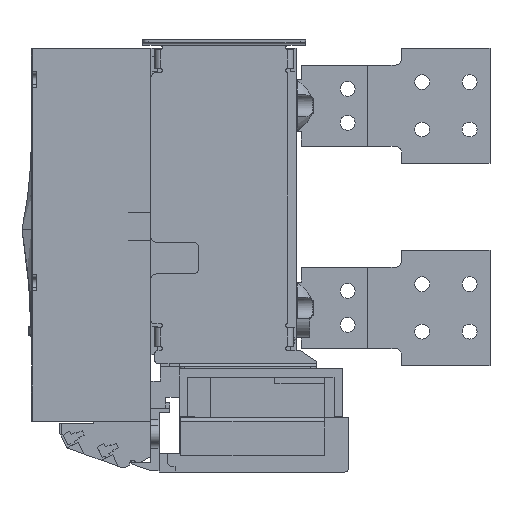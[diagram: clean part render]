
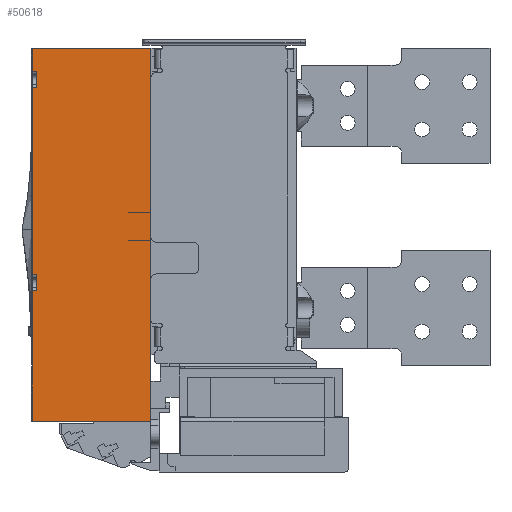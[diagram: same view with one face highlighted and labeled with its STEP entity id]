
A CAD part, left-side view. The second image highlights one B-rep face of the part: STEP entity #50618.
In plain terms, the highlighted planar face has unit normal (-1, 0, 0).
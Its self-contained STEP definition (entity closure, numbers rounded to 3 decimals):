
#43374=DIRECTION('',(0.,0.,1.));
#43375=VECTOR('',#43374,275.);
#43376=CARTESIAN_POINT('',(-105.,0.,-137.5));
#43377=LINE('',#43376,#43375);
#43501=DIRECTION('',(0.,0.,-1.));
#43502=VECTOR('',#43501,11.5);
#43503=CARTESIAN_POINT('',(-105.,84.,120.25));
#43504=LINE('',#43503,#43502);
#43522=DIRECTION('',(0.,0.,-1.));
#43523=VECTOR('',#43522,11.5);
#43524=CARTESIAN_POINT('',(-105.,84.,-29.75));
#43525=LINE('',#43524,#43523);
#43914=DIRECTION('',(0.,0.,-1.));
#43915=VECTOR('',#43914,96.25);
#43916=CARTESIAN_POINT('',(-105.,87.5,-41.25));
#43917=LINE('',#43916,#43915);
#43983=DIRECTION('',(0.,1.,0.));
#43984=VECTOR('',#43983,3.5);
#43985=CARTESIAN_POINT('',(-105.,84.,-41.25));
#43986=LINE('',#43985,#43984);
#44113=DIRECTION('',(0.,0.,1.));
#44114=VECTOR('',#44113,138.5);
#44115=CARTESIAN_POINT('',(-105.,87.5,-29.75));
#44116=LINE('',#44115,#44114);
#44244=DIRECTION('',(0.,0.,1.));
#44245=VECTOR('',#44244,17.25);
#44246=CARTESIAN_POINT('',(-105.,87.5,120.25));
#44247=LINE('',#44246,#44245);
#44472=DIRECTION('',(0.,1.,0.));
#44473=VECTOR('',#44472,87.5);
#44474=CARTESIAN_POINT('',(-105.,0.,137.5));
#44475=LINE('',#44474,#44473);
#44479=DIRECTION('',(0.,-1.,0.));
#44480=VECTOR('',#44479,3.5);
#44481=CARTESIAN_POINT('',(-105.,87.5,120.25));
#44482=LINE('',#44481,#44480);
#44538=DIRECTION('',(0.,1.,0.));
#44539=VECTOR('',#44538,3.5);
#44540=CARTESIAN_POINT('',(-105.,84.,108.75));
#44541=LINE('',#44540,#44539);
#44545=DIRECTION('',(0.,-1.,0.));
#44546=VECTOR('',#44545,3.5);
#44547=CARTESIAN_POINT('',(-105.,87.5,-29.75));
#44548=LINE('',#44547,#44546);
#44589=DIRECTION('',(0.,-1.,0.));
#44590=VECTOR('',#44589,87.5);
#44591=CARTESIAN_POINT('',(-105.,87.5,-137.5));
#44592=LINE('',#44591,#44590);
#49058=CARTESIAN_POINT('',(-105.,0.,-137.5));
#49059=CARTESIAN_POINT('',(-105.,0.,137.5));
#49060=VERTEX_POINT('',#49058);
#49061=VERTEX_POINT('',#49059);
#49822=CARTESIAN_POINT('',(-105.,84.,108.75));
#49823=VERTEX_POINT('',#49822);
#49824=CARTESIAN_POINT('',(-105.,84.,120.25));
#49825=VERTEX_POINT('',#49824);
#49826=CARTESIAN_POINT('',(-105.,84.,-41.25));
#49827=VERTEX_POINT('',#49826);
#49828=CARTESIAN_POINT('',(-105.,84.,-29.75));
#49829=VERTEX_POINT('',#49828);
#49838=CARTESIAN_POINT('',(-105.,87.5,-41.25));
#49840=VERTEX_POINT('',#49838);
#49856=CARTESIAN_POINT('',(-105.,87.5,-29.75));
#49857=VERTEX_POINT('',#49856);
#49860=CARTESIAN_POINT('',(-105.,87.5,108.75));
#49861=VERTEX_POINT('',#49860);
#49880=CARTESIAN_POINT('',(-105.,87.5,120.25));
#49881=VERTEX_POINT('',#49880);
#49882=CARTESIAN_POINT('',(-105.,87.5,137.5));
#49883=VERTEX_POINT('',#49882);
#49958=CARTESIAN_POINT('',(-105.,87.5,-137.5));
#49960=VERTEX_POINT('',#49958);
#50591=CARTESIAN_POINT('',(-105.,0.,-137.5));
#50592=DIRECTION('',(-1.,0.,0.));
#50593=DIRECTION('',(0.,0.,1.));
#50594=AXIS2_PLACEMENT_3D('',#50591,#50592,#50593);
#50595=PLANE('',#50594);
#50596=ORIENTED_EDGE('',*,*,#50574,.F.);
#50598=ORIENTED_EDGE('',*,*,#50597,.F.);
#50599=ORIENTED_EDGE('',*,*,#50249,.F.);
#50601=ORIENTED_EDGE('',*,*,#50600,.F.);
#50603=ORIENTED_EDGE('',*,*,#50602,.T.);
#50605=ORIENTED_EDGE('',*,*,#50604,.F.);
#50606=ORIENTED_EDGE('',*,*,#50223,.F.);
#50608=ORIENTED_EDGE('',*,*,#50607,.F.);
#50610=ORIENTED_EDGE('',*,*,#50609,.T.);
#50612=ORIENTED_EDGE('',*,*,#50611,.F.);
#50613=ORIENTED_EDGE('',*,*,#50125,.F.);
#50615=ORIENTED_EDGE('',*,*,#50614,.F.);
#50616=EDGE_LOOP('',(#50596,#50598,#50599,#50601,#50603,#50605,#50606,#50608,
#50610,#50612,#50613,#50615));
#50617=FACE_OUTER_BOUND('',#50616,.F.);
#50618=ADVANCED_FACE('',(#50617),#50595,.T.);
#50125=EDGE_CURVE('',#49060,#49061,#43377,.T.);
#50223=EDGE_CURVE('',#49825,#49823,#43504,.T.);
#50249=EDGE_CURVE('',#49829,#49827,#43525,.T.);
#50574=EDGE_CURVE('',#49840,#49960,#43917,.T.);
#50597=EDGE_CURVE('',#49827,#49840,#43986,.T.);
#50600=EDGE_CURVE('',#49857,#49829,#44548,.T.);
#50602=EDGE_CURVE('',#49857,#49861,#44116,.T.);
#50604=EDGE_CURVE('',#49823,#49861,#44541,.T.);
#50607=EDGE_CURVE('',#49881,#49825,#44482,.T.);
#50609=EDGE_CURVE('',#49881,#49883,#44247,.T.);
#50611=EDGE_CURVE('',#49061,#49883,#44475,.T.);
#50614=EDGE_CURVE('',#49960,#49060,#44592,.T.);
